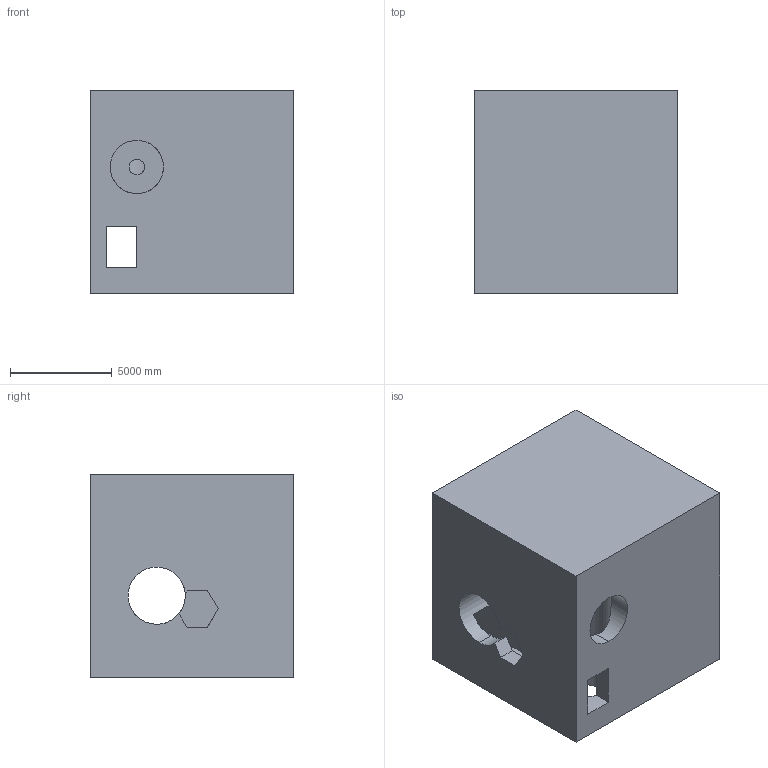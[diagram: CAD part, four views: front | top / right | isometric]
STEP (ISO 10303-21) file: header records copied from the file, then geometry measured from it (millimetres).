
FILE_DESCRIPTION (( 'STEP AP203' ), '1' );
FILE_NAME ('1575.STEP', '2022-08-18T15:53:54', ( 'user' ), ( '' ), 'SwSTEP 2.0', 'SolidWorks 2021', '' );
FILE_SCHEMA (( 'CONFIG_CONTROL_DESIGN' ));
Length unit declared in the file: centimetre
Products named in the file (1): 1575
Bounding box: 10000 x 10000 x 10000 mm (x, y, z)
Volume: 824637426863.1 mm3; surface area: 833943926.8 mm2
Topology: 1 solids, 1 shells, 38 faces, 120 edges, 80 vertices
Faces by surface type: plane 26, cylinder 12
Entity records: 2020 total; most frequent: CARTESIAN_POINT 842, ORIENTED_EDGE 240, DIRECTION 218, EDGE_CURVE 120, LINE 84, VECTOR 84, VERTEX_POINT 80, AXIS2_PLACEMENT_3D 67
